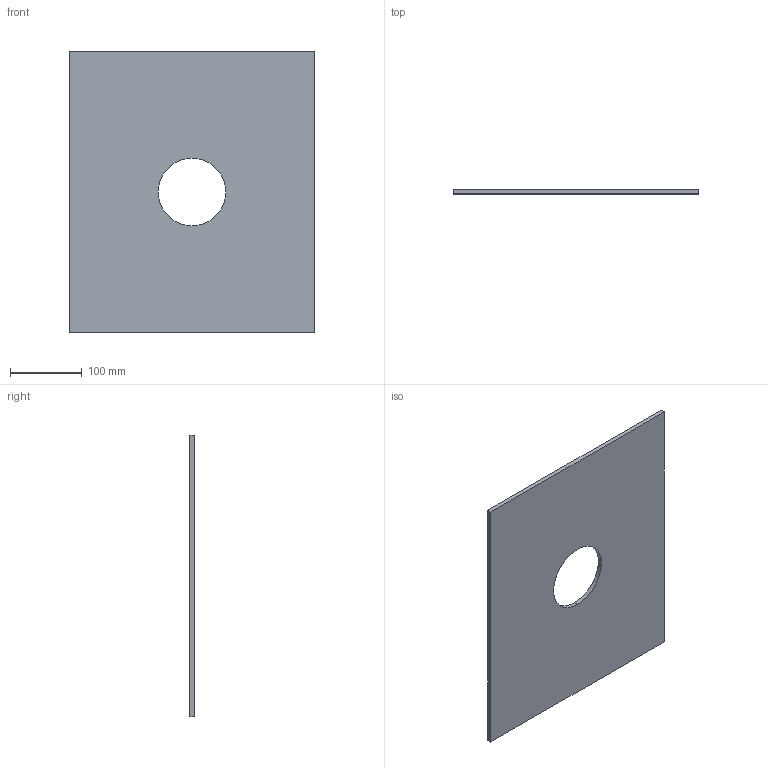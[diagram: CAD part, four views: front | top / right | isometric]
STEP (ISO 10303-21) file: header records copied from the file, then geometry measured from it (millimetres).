
FILE_DESCRIPTION (( 'STEP AP214' ), '1' );
FILE_NAME ('HTIS-B_3540-6.STEP', '2015-11-10T23:45:03', ( '' ), ( '' ), 'SwSTEP 2.0', 'SolidWorks 2014', '' );
FILE_SCHEMA (( 'AUTOMOTIVE_DESIGN' ));
Length unit declared in the file: millimetre
Products named in the file (1): HTIS-B_3540-6
Bounding box: 342 x 6 x 392 mm (x, y, z)
Volume: 762745.3 mm3; surface area: 264828.3 mm2
Topology: 1 solids, 1 shells, 8 faces, 18 edges, 12 vertices
Faces by surface type: plane 6, cylinder 2
Entity records: 264 total; most frequent: DIRECTION 40, CARTESIAN_POINT 39, ORIENTED_EDGE 36, EDGE_CURVE 18, VECTOR 14, LINE 14, AXIS2_PLACEMENT_3D 13, VERTEX_POINT 12
